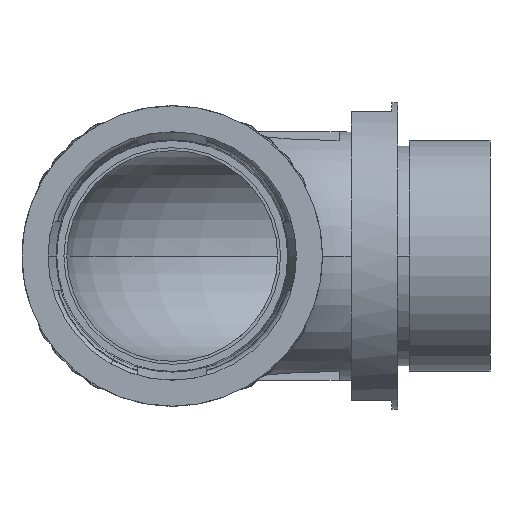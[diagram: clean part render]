
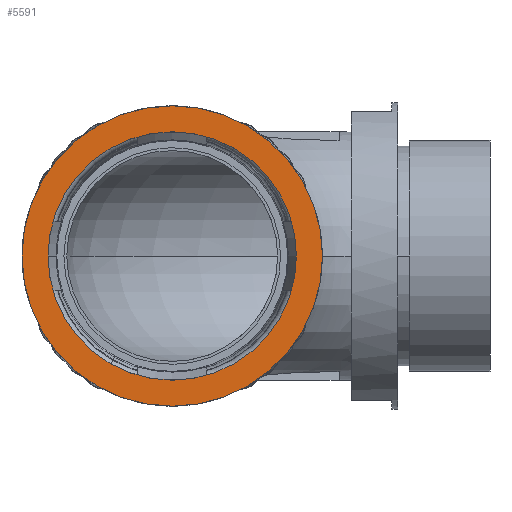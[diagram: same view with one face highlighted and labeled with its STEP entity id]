
A CAD part, front view. The second image highlights one B-rep face of the part: STEP entity #5591.
In plain terms, the highlighted planar face has unit normal (0, -1, 0) as drawn and (0, 0, -1) by its records, which use the part's own axes.
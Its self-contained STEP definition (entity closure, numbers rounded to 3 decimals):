
#5586 = ORIENTED_EDGE ( 'NONE', *, *, #5597, .F. ) ;
#5588 = EDGE_LOOP ( 'NONE', ( #5596, #5789 ) ) ;
#5589 = EDGE_CURVE ( 'NONE', #6123, #6130, #8553, .T. ) ;
#5591 = ADVANCED_FACE ( 'NONE', ( #8545, #8540 ), #8535, .F. ) ;
#5594 = EDGE_LOOP ( 'NONE', ( #5586, #5603 ) ) ;
#5596 = ORIENTED_EDGE ( 'NONE', *, *, #5589, .T. ) ;
#5597 = EDGE_CURVE ( 'NONE', #6194, #6195, #8589, .T. ) ;
#5603 = ORIENTED_EDGE ( 'NONE', *, *, #6191, .F. ) ;
#5789 = ORIENTED_EDGE ( 'NONE', *, *, #6115, .T. ) ;
#6115 = EDGE_CURVE ( 'NONE', #6130, #6123, #9801, .T. ) ;
#6123 = VERTEX_POINT ( 'NONE', #9844 ) ;
#6130 = VERTEX_POINT ( 'NONE', #9840 ) ;
#6191 = EDGE_CURVE ( 'NONE', #6195, #6194, #9158, .T. ) ;
#6194 = VERTEX_POINT ( 'NONE', #9694 ) ;
#6195 = VERTEX_POINT ( 'NONE', #9663 ) ;
#8535 = PLANE ( 'NONE',  #8552 ) ;
#8536 = CARTESIAN_POINT ( 'NONE',  ( 0., 0., 0. ) ) ;
#8538 = DIRECTION ( 'NONE',  ( 1., 0., 0. ) ) ;
#8539 = DIRECTION ( 'NONE',  ( 0., 0., 1. ) ) ;
#8540 = FACE_OUTER_BOUND ( 'NONE', #5594, .T. ) ;
#8545 = FACE_BOUND ( 'NONE', #5588, .T. ) ;
#8551 = CARTESIAN_POINT ( 'NONE',  ( 0., 0., 0. ) ) ;
#8552 = AXIS2_PLACEMENT_3D ( 'NONE', #8594, #8593, #8592 ) ;
#8553 = CIRCLE ( 'NONE', #8558, 21.5 ) ;
#8558 = AXIS2_PLACEMENT_3D ( 'NONE', #8551, #8539, #8538 ) ;
#8586 = DIRECTION ( 'NONE',  ( 1., 0., 0. ) ) ;
#8587 = DIRECTION ( 'NONE',  ( 0., 0., 1. ) ) ;
#8588 = AXIS2_PLACEMENT_3D ( 'NONE', #8536, #8587, #8586 ) ;
#8589 = CIRCLE ( 'NONE', #8588, 26. ) ;
#8592 = DIRECTION ( 'NONE',  ( 1., 0., 0. ) ) ;
#8593 = DIRECTION ( 'NONE',  ( 0., 0., 1. ) ) ;
#8594 = CARTESIAN_POINT ( 'NONE',  ( 0., 0., 0. ) ) ;
#9158 = CIRCLE ( 'NONE', #9193, 26. ) ;
#9179 = DIRECTION ( 'NONE',  ( 1., 0., 0. ) ) ;
#9180 = DIRECTION ( 'NONE',  ( 0., 0., 1. ) ) ;
#9181 = CARTESIAN_POINT ( 'NONE',  ( 0., 0., 0. ) ) ;
#9193 = AXIS2_PLACEMENT_3D ( 'NONE', #9181, #9180, #9179 ) ;
#9663 = CARTESIAN_POINT ( 'NONE',  ( 26., 0., 0. ) ) ;
#9694 = CARTESIAN_POINT ( 'NONE',  ( -26., 0., 0. ) ) ;
#9763 = AXIS2_PLACEMENT_3D ( 'NONE', #9808, #9800, #9792 ) ;
#9792 = DIRECTION ( 'NONE',  ( 1., 0., 0. ) ) ;
#9800 = DIRECTION ( 'NONE',  ( 0., 0., 1. ) ) ;
#9801 = CIRCLE ( 'NONE', #9763, 21.5 ) ;
#9808 = CARTESIAN_POINT ( 'NONE',  ( 0., 0., 0. ) ) ;
#9840 = CARTESIAN_POINT ( 'NONE',  ( -21.5, 0., 0. ) ) ;
#9844 = CARTESIAN_POINT ( 'NONE',  ( 21.5, 0., 0. ) ) ;
